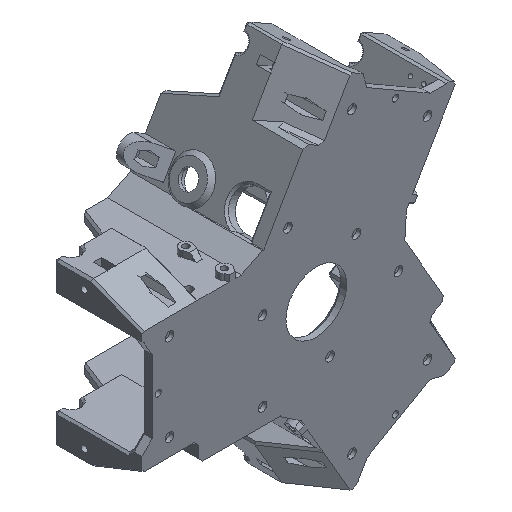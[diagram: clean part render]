
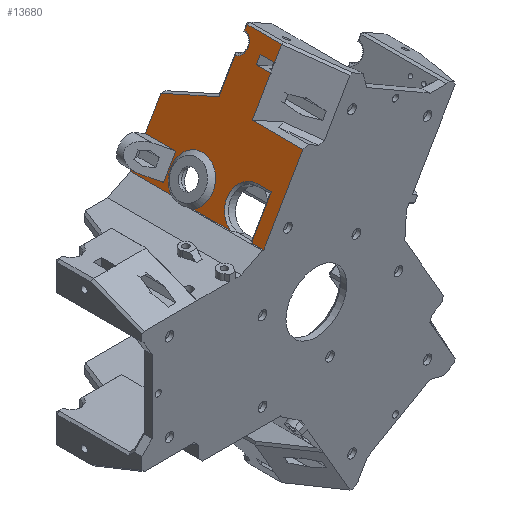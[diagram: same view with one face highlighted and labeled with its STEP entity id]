
A CAD part, isometric view. The second image highlights one B-rep face of the part: STEP entity #13680.
In plain terms, the highlighted planar face has unit normal (-0.866, 0, 0.5).
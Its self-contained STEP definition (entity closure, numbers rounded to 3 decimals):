
#724=PLANE('',#14564);
#1070=CIRCLE('',#14298,10.);
#1129=CIRCLE('',#14459,5.);
#1147=CIRCLE('',#14565,10.45);
#1636=FACE_OUTER_BOUND('',#2485,.T.);
#2485=EDGE_LOOP('',(#11689,#11690,#11691,#11692,#11693,#11694,#11695,#11696,
#11697,#11698,#11699,#11700,#11701,#11702,#11703,#11704,#11705,#11706,#11707,
#11708,#11709,#11710,#11711,#11712,#11713));
#3549=LINE('',#21552,#5140);
#3591=LINE('',#21645,#5182);
#3593=LINE('',#21651,#5184);
#3594=LINE('',#21656,#5185);
#3598=LINE('',#21664,#5189);
#3601=LINE('',#21673,#5192);
#3670=LINE('',#21845,#5261);
#3673=LINE('',#21853,#5264);
#3848=LINE('',#22890,#5439);
#3851=LINE('',#22896,#5442);
#3852=LINE('',#22910,#5443);
#3855=LINE('',#22914,#5446);
#4049=LINE('',#23404,#5640);
#4050=LINE('',#23407,#5641);
#4051=LINE('',#23409,#5642);
#4052=LINE('',#23411,#5643);
#4053=LINE('',#23413,#5644);
#4054=LINE('',#23415,#5645);
#4055=LINE('',#23416,#5646);
#4056=LINE('',#23418,#5647);
#4057=LINE('',#23420,#5648);
#4058=LINE('',#23421,#5649);
#5140=VECTOR('',#16112,10.);
#5182=VECTOR('',#16180,10.);
#5184=VECTOR('',#16182,10.);
#5185=VECTOR('',#16187,10.);
#5189=VECTOR('',#16193,10.);
#5192=VECTOR('',#16204,10.);
#5261=VECTOR('',#16337,10.);
#5264=VECTOR('',#16342,10.);
#5439=VECTOR('',#16765,10.);
#5442=VECTOR('',#16770,10.);
#5443=VECTOR('',#16777,10.);
#5446=VECTOR('',#16782,10.);
#5640=VECTOR('',#17180,10.);
#5641=VECTOR('',#17183,10.);
#5642=VECTOR('',#17184,10.);
#5643=VECTOR('',#17185,10.);
#5644=VECTOR('',#17186,10.);
#5645=VECTOR('',#17187,10.);
#5646=VECTOR('',#17188,10.);
#5647=VECTOR('',#17189,10.);
#5648=VECTOR('',#17190,10.);
#5649=VECTOR('',#17191,10.);
#6718=VERTEX_POINT('',#21549);
#6719=VERTEX_POINT('',#21551);
#6750=VERTEX_POINT('',#21635);
#6753=VERTEX_POINT('',#21640);
#6754=VERTEX_POINT('',#21644);
#6756=VERTEX_POINT('',#21653);
#6757=VERTEX_POINT('',#21655);
#6760=VERTEX_POINT('',#21663);
#6762=VERTEX_POINT('',#21669);
#6819=VERTEX_POINT('',#21844);
#6822=VERTEX_POINT('',#21850);
#6823=VERTEX_POINT('',#21852);
#6994=VERTEX_POINT('',#22887);
#6995=VERTEX_POINT('',#22889);
#6996=VERTEX_POINT('',#22893);
#6997=VERTEX_POINT('',#22895);
#6998=VERTEX_POINT('',#22902);
#6999=VERTEX_POINT('',#22909);
#7130=VERTEX_POINT('',#23406);
#7131=VERTEX_POINT('',#23408);
#7132=VERTEX_POINT('',#23410);
#7133=VERTEX_POINT('',#23412);
#7134=VERTEX_POINT('',#23414);
#7135=VERTEX_POINT('',#23417);
#7136=VERTEX_POINT('',#23419);
#8165=EDGE_CURVE('',#6719,#6718,#3549,.T.);
#8213=EDGE_CURVE('',#6753,#6754,#3591,.F.);
#8216=EDGE_CURVE('',#6750,#6719,#3593,.T.);
#8218=EDGE_CURVE('',#6756,#6757,#3594,.T.);
#8222=EDGE_CURVE('',#6750,#6760,#3598,.T.);
#8226=EDGE_CURVE('',#6762,#6753,#1070,.T.);
#8227=EDGE_CURVE('',#6760,#6762,#3601,.T.);
#8310=EDGE_CURVE('',#6819,#6757,#3670,.T.);
#8314=EDGE_CURVE('',#6822,#6823,#3673,.T.);
#8584=EDGE_CURVE('',#6994,#6995,#3848,.T.);
#8587=EDGE_CURVE('',#6996,#6997,#3851,.T.);
#8589=EDGE_CURVE('',#6997,#6998,#1129,.T.);
#8591=EDGE_CURVE('',#6998,#6999,#3852,.T.);
#8594=EDGE_CURVE('',#6999,#6994,#3855,.T.);
#8821=EDGE_CURVE('',#6823,#6996,#4049,.T.);
#8822=EDGE_CURVE('',#7130,#6718,#4050,.T.);
#8823=EDGE_CURVE('',#7131,#7130,#4051,.T.);
#8824=EDGE_CURVE('',#7131,#7132,#4052,.T.);
#8825=EDGE_CURVE('',#7132,#7133,#4053,.T.);
#8826=EDGE_CURVE('',#7133,#7134,#4054,.T.);
#8827=EDGE_CURVE('',#6995,#7134,#4055,.T.);
#8828=EDGE_CURVE('',#6822,#7135,#4056,.T.);
#8829=EDGE_CURVE('',#7136,#7135,#4057,.T.);
#8830=EDGE_CURVE('',#7136,#6819,#4058,.T.);
#8831=EDGE_CURVE('',#6754,#6756,#1147,.T.);
#11689=ORIENTED_EDGE('',*,*,#8222,.F.);
#11690=ORIENTED_EDGE('',*,*,#8216,.T.);
#11691=ORIENTED_EDGE('',*,*,#8165,.T.);
#11692=ORIENTED_EDGE('',*,*,#8822,.F.);
#11693=ORIENTED_EDGE('',*,*,#8823,.F.);
#11694=ORIENTED_EDGE('',*,*,#8824,.T.);
#11695=ORIENTED_EDGE('',*,*,#8825,.T.);
#11696=ORIENTED_EDGE('',*,*,#8826,.T.);
#11697=ORIENTED_EDGE('',*,*,#8827,.F.);
#11698=ORIENTED_EDGE('',*,*,#8584,.F.);
#11699=ORIENTED_EDGE('',*,*,#8594,.F.);
#11700=ORIENTED_EDGE('',*,*,#8591,.F.);
#11701=ORIENTED_EDGE('',*,*,#8589,.F.);
#11702=ORIENTED_EDGE('',*,*,#8587,.F.);
#11703=ORIENTED_EDGE('',*,*,#8821,.F.);
#11704=ORIENTED_EDGE('',*,*,#8314,.F.);
#11705=ORIENTED_EDGE('',*,*,#8828,.T.);
#11706=ORIENTED_EDGE('',*,*,#8829,.F.);
#11707=ORIENTED_EDGE('',*,*,#8830,.T.);
#11708=ORIENTED_EDGE('',*,*,#8310,.T.);
#11709=ORIENTED_EDGE('',*,*,#8218,.F.);
#11710=ORIENTED_EDGE('',*,*,#8831,.F.);
#11711=ORIENTED_EDGE('',*,*,#8213,.F.);
#11712=ORIENTED_EDGE('',*,*,#8226,.F.);
#11713=ORIENTED_EDGE('',*,*,#8227,.F.);
#13680=ADVANCED_FACE('',(#1636),#724,.T.);
#14298=AXIS2_PLACEMENT_3D('',#21671,#16200,#16201);
#14459=AXIS2_PLACEMENT_3D('',#22903,#16773,#16774);
#14564=AXIS2_PLACEMENT_3D('',#23405,#17181,#17182);
#14565=AXIS2_PLACEMENT_3D('',#23422,#17192,#17193);
#16112=DIRECTION('',(0.5,0.,0.866));
#16180=DIRECTION('',(0.,-1.,0.));
#16182=DIRECTION('',(0.,-1.,0.));
#16187=DIRECTION('',(0.,1.,0.));
#16193=DIRECTION('',(0.5,0.,0.866));
#16200=DIRECTION('center_axis',(-0.866,0.,0.5));
#16201=DIRECTION('ref_axis',(0.5,0.,0.866));
#16204=DIRECTION('',(0.,1.,0.));
#16337=DIRECTION('',(-0.5,0.,-0.866));
#16342=DIRECTION('',(0.5,0.,0.866));
#16765=DIRECTION('',(0.,-1.,0.));
#16770=DIRECTION('',(0.5,0.,0.866));
#16773=DIRECTION('center_axis',(-0.866,0.,0.5));
#16774=DIRECTION('ref_axis',(-0.5,0.,-0.866));
#16777=DIRECTION('',(0.5,0.,0.866));
#16782=DIRECTION('',(0.354,-0.707,0.612));
#17180=DIRECTION('',(0.182,-0.931,0.316));
#17181=DIRECTION('center_axis',(-0.866,0.,0.5));
#17182=DIRECTION('ref_axis',(0.5,0.,0.866));
#17183=DIRECTION('',(0.,-1.,0.));
#17184=DIRECTION('',(-0.5,0.,-0.866));
#17185=DIRECTION('',(0.,1.,0.));
#17186=DIRECTION('',(0.5,0.,0.866));
#17187=DIRECTION('',(0.,-1.,0.));
#17188=DIRECTION('',(-0.5,0.,-0.866));
#17189=DIRECTION('',(0.,-1.,0.));
#17190=DIRECTION('',(0.5,0.,0.866));
#17191=DIRECTION('',(0.,1.,0.));
#17192=DIRECTION('center_axis',(-0.866,0.,0.5));
#17193=DIRECTION('ref_axis',(-0.5,0.,-0.866));
#21549=CARTESIAN_POINT('',(71.359,-43.,38.497));
#21551=CARTESIAN_POINT('',(52.092,-43.,5.126));
#21552=CARTESIAN_POINT('',(60.859,-43.,20.311));
#21635=CARTESIAN_POINT('',(52.092,-37.,5.126));
#21640=CARTESIAN_POINT('',(52.092,-26.983,5.126));
#21644=CARTESIAN_POINT('',(52.092,-8.253,5.126));
#21645=CARTESIAN_POINT('',(52.092,-23.5,5.126));
#21651=CARTESIAN_POINT('',(52.092,-23.5,5.126));
#21653=CARTESIAN_POINT('',(52.359,3.079,5.588));
#21655=CARTESIAN_POINT('',(52.359,23.,5.588));
#21656=CARTESIAN_POINT('',(52.359,-38.,5.588));
#21663=CARTESIAN_POINT('',(61.859,-37.,22.043));
#21664=CARTESIAN_POINT('',(65.359,-37.,28.105));
#21669=CARTESIAN_POINT('',(61.859,-30.,22.043));
#21671=CARTESIAN_POINT('Origin',(56.859,-30.,13.383));
#21673=CARTESIAN_POINT('',(61.859,-35.25,22.043));
#21844=CARTESIAN_POINT('',(53.609,23.,7.754));
#21845=CARTESIAN_POINT('',(57.584,23.,14.639));
#21850=CARTESIAN_POINT('',(59.609,23.,18.146));
#21852=CARTESIAN_POINT('',(67.322,23.,31.505));
#21853=CARTESIAN_POINT('',(72.359,23.,40.229));
#22887=CARTESIAN_POINT('',(85.859,-1.414,63.612));
#22889=CARTESIAN_POINT('',(85.859,-18.,63.612));
#22890=CARTESIAN_POINT('',(85.859,-41.75,63.612));
#22893=CARTESIAN_POINT('',(72.018,-1.,39.638));
#22895=CARTESIAN_POINT('',(79.909,-1.,53.307));
#22896=CARTESIAN_POINT('',(65.234,-1.,27.889));
#22902=CARTESIAN_POINT('',(84.808,-1.,61.793));
#22903=CARTESIAN_POINT('Origin',(82.359,0.,57.55));
#22909=CARTESIAN_POINT('',(85.652,-1.,63.253));
#22910=CARTESIAN_POINT('',(65.234,-1.,27.889));
#22914=CARTESIAN_POINT('',(86.568,-2.832,64.84));
#23404=CARTESIAN_POINT('',(72.88,-5.407,41.132));
#23405=CARTESIAN_POINT('Origin',(69.359,-40.5,35.033));
#23406=CARTESIAN_POINT('',(71.359,-18.,38.497));
#23407=CARTESIAN_POINT('',(71.359,-8.75,38.497));
#23408=CARTESIAN_POINT('',(80.359,-18.,54.086));
#23409=CARTESIAN_POINT('',(86.359,-18.,64.478));
#23410=CARTESIAN_POINT('',(80.359,-11.,54.086));
#23411=CARTESIAN_POINT('',(80.359,-29.25,54.086));
#23412=CARTESIAN_POINT('',(82.359,-11.,57.55));
#23413=CARTESIAN_POINT('',(74.859,-11.,44.56));
#23414=CARTESIAN_POINT('',(82.359,-18.,57.55));
#23415=CARTESIAN_POINT('',(82.359,-25.75,57.55));
#23416=CARTESIAN_POINT('',(86.359,-18.,64.478));
#23417=CARTESIAN_POINT('',(59.609,8.,18.146));
#23418=CARTESIAN_POINT('',(59.609,-8.75,18.146));
#23419=CARTESIAN_POINT('',(53.609,8.,7.754));
#23420=CARTESIAN_POINT('',(62.984,8.,23.991));
#23421=CARTESIAN_POINT('',(53.609,-8.75,7.754));
#23422=CARTESIAN_POINT('Origin',(56.609,-3.,12.95));
